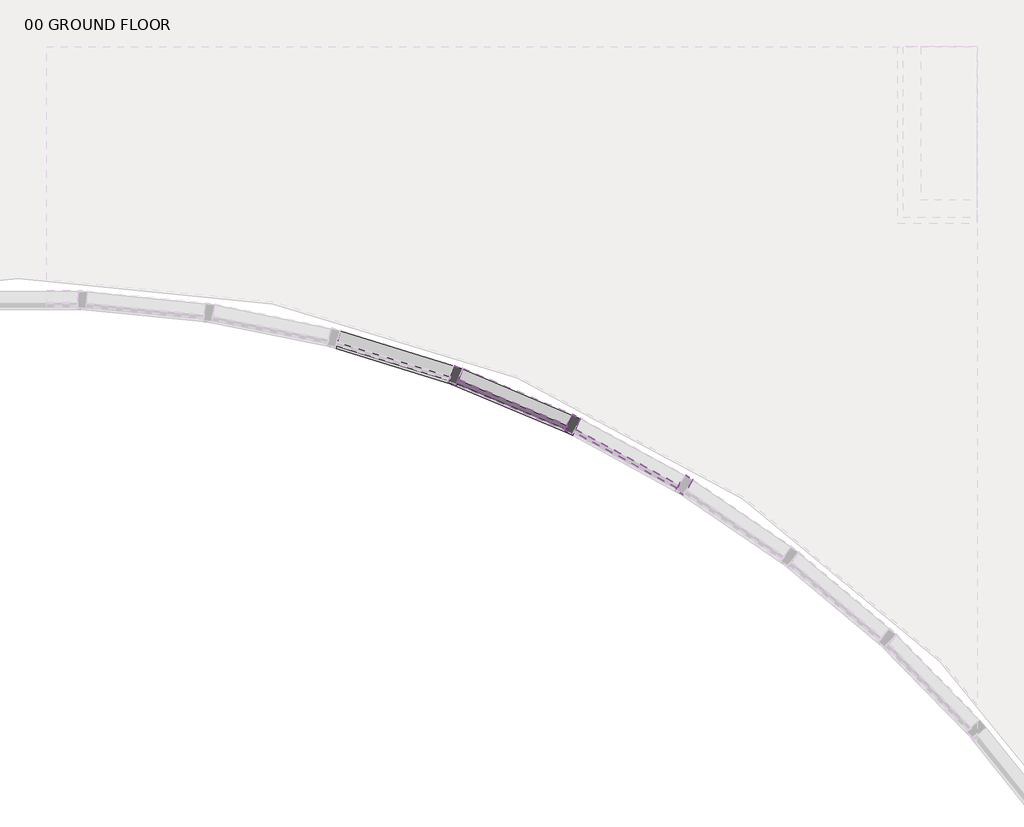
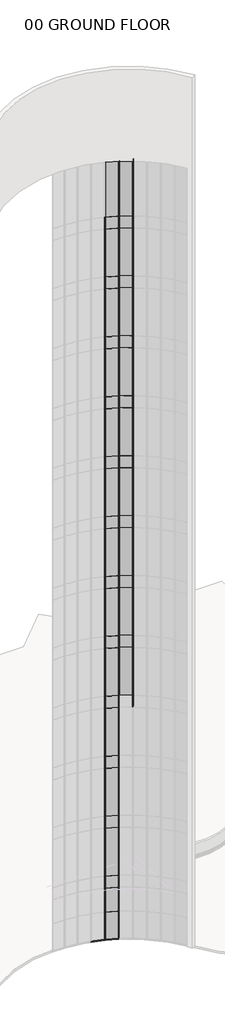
# One storey, part 10 of 33: 72 members, 43 plates.
"""IFC4 building model written with IfcOpenShell, lengths in millimetres."""

from ifc_helpers import new_model, si_unit, origin, place, context, project, spatial, transform, mapped, element, save
from components import member_ab6b85c2, member_7cbddb58, member_d60e8053, member_410c6227, member_810865a4, member_9e61c091, system_panel_su_blue_992d2dbe, system_panel_su_blue_f02faf6b, system_panel_su_blue_144861c6, system_panel_su_blue_654c3fe2, system_panel_su_blue_af244712

model = new_model("IFC4")

# Units and contexts
model_context = context("Model", 3, world=origin())
ifc_project = project(units=[si_unit("LENGTHUNIT", "METRE", prefix="MILLI")], contexts=[model_context])

# Site, building, storey
site = spatial("IfcSite", under=ifc_project)
building = spatial("IfcBuilding", under=site)
storey = spatial("IfcBuildingStorey", under=building, Name="00 GROUND FLOOR", Elevation=0.0)

# Members
placement = place(None, origin())
member_shape = member_ab6b85c2(model_context)
element("IfcMember", 1, ObjectType="Rectangular Mullion : 2.5\" x 5\" rectangular", at=placement, inside=storey, context=model_context, shape_type="MappedRepresentation", body=[
    mapped(member_shape, transform((18188.1623788, 3537.3052928, 59436.0), x_axis=(0.0, 0.0, 1.0), y_axis=(0.387673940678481, 0.9217965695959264, 0.0), z_axis=(-0.9217965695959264, 0.387673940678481, 0.0))),
])
element("IfcMember", 2, ObjectType="Rectangular Mullion : 2.5\" x 5\" rectangular", at=placement, inside=storey, context=model_context, shape_type="MappedRepresentation", body=[
    mapped(member_shape, transform((18953.9165021, 3215.2571009, 0.0), x_axis=(0.0, 0.0, -1.0), y_axis=(0.38767394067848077, 0.9217965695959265, 0.0), z_axis=(0.9217965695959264, -0.3876739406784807, 0.0))),
])
element("IfcMember", 3, ObjectType="Rectangular Mullion : 2.5\" x 5\" rectangular", at=placement, inside=storey, context=model_context, shape_type="MappedRepresentation", body=[
    mapped(member_shape, transform((18128.5501125, 3558.9536304, 0.0), x_axis=(0.0, 0.0, -1.0), y_axis=(0.2941634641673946, 0.9557551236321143, 0.0), z_axis=(0.9557551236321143, -0.2941634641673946, 0.0))),
])
member_2_shape = member_7cbddb58(model_context)
element("IfcMember", 4, ObjectType="Rectangular Mullion : 2.5\" x 5\" rectangular", at=placement, inside=storey, context=model_context, shape_type="MappedRepresentation", body=[
    mapped(member_2_shape, transform((18983.1835432, 3202.9484533, 0.0), x_axis=(-0.9013714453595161, 0.4330467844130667, 0.0), y_axis=(0.4330467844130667, 0.9013714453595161, 0.0), z_axis=(0.0, 0.0, -1.0))),
])
element("IfcMember", 5, ObjectType="Rectangular Mullion : 2.5\" x 5\" rectangular", at=placement, inside=storey, context=model_context, shape_type="MappedRepresentation", body=[
    mapped(member_2_shape, transform((18158.8953377, 3549.6139404, 0.0), x_axis=(-0.9399394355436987, 0.3413412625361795, 0.0), y_axis=(0.3413412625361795, 0.9399394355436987, 0.0), z_axis=(0.0, 0.0, -1.0))),
])
member_3_shape = member_d60e8053(model_context)
element("IfcMember", 6, ObjectType="Rectangular Mullion : 2.5\" x 5\" rectangular", at=placement, inside=storey, context=model_context, shape_type="MappedRepresentation", body=[
    mapped(member_3_shape, transform((18983.1835432, 3202.9484533, 2133.6), x_axis=(-0.9013714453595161, 0.4330467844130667, 0.0), y_axis=(0.4330467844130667, 0.9013714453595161, 0.0), z_axis=(0.0, 0.0, -1.0))),
])
element("IfcMember", 7, ObjectType="Rectangular Mullion : 2.5\" x 5\" rectangular", at=placement, inside=storey, context=model_context, shape_type="MappedRepresentation", body=[
    mapped(member_3_shape, transform((18158.8953377, 3549.6139404, 2133.6), x_axis=(-0.9399394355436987, 0.3413412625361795, 0.0), y_axis=(0.3413412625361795, 0.9399394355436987, 0.0), z_axis=(0.0, 0.0, -1.0))),
])
member_4_shape = member_410c6227(model_context)
element("IfcMember", 8, ObjectType="Rectangular Mullion : 2.5\" x 5\" rectangular", at=placement, inside=storey, context=model_context, shape_type="MappedRepresentation", body=[
    mapped(member_4_shape, transform((18983.1835432, 3202.9484533, 3962.4), x_axis=(-0.9013714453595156, 0.4330467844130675, 0.0), y_axis=(0.4330467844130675, 0.9013714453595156, 0.0), z_axis=(0.0, 0.0, -1.0))),
])
element("IfcMember", 9, ObjectType="Rectangular Mullion : 2.5\" x 5\" rectangular", at=placement, inside=storey, context=model_context, shape_type="MappedRepresentation", body=[
    mapped(member_4_shape, transform((18158.8953377, 3549.6139404, 3962.4), x_axis=(-0.9399394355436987, 0.3413412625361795, 0.0), y_axis=(0.3413412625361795, 0.9399394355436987, 0.0), z_axis=(0.0, 0.0, -1.0))),
])
element("IfcMember", 10, ObjectType="Rectangular Mullion : 2.5\" x 5\" rectangular", at=placement, inside=storey, context=model_context, shape_type="MappedRepresentation", body=[
    mapped(member_4_shape, transform((18983.1835432, 3202.9484533, 8534.4), x_axis=(-0.9013714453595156, 0.4330467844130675, 0.0), y_axis=(0.4330467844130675, 0.9013714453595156, 0.0), z_axis=(0.0, 0.0, -1.0))),
])
element("IfcMember", 11, ObjectType="Rectangular Mullion : 2.5\" x 5\" rectangular", at=placement, inside=storey, context=model_context, shape_type="MappedRepresentation", body=[
    mapped(member_4_shape, transform((18158.8953377, 3549.6139404, 8534.4), x_axis=(-0.9399394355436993, 0.34134126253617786, 0.0), y_axis=(0.34134126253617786, 0.9399394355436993, 0.0), z_axis=(0.0, 0.0, -1.0))),
])
element("IfcMember", 12, ObjectType="Rectangular Mullion : 2.5\" x 5\" rectangular", at=placement, inside=storey, context=model_context, shape_type="MappedRepresentation", body=[
    mapped(member_4_shape, transform((18983.1835432, 3202.9484533, 13106.4), x_axis=(-0.9013714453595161, 0.4330467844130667, 0.0), y_axis=(0.4330467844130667, 0.9013714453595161, 0.0), z_axis=(0.0, 0.0, -1.0))),
])
element("IfcMember", 13, ObjectType="Rectangular Mullion : 2.5\" x 5\" rectangular", at=placement, inside=storey, context=model_context, shape_type="MappedRepresentation", body=[
    mapped(member_4_shape, transform((18158.8953377, 3549.6139404, 13106.4), x_axis=(-0.9399394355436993, 0.34134126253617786, 0.0), y_axis=(0.34134126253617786, 0.9399394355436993, 0.0), z_axis=(0.0, 0.0, -1.0))),
])
element("IfcMember", 14, ObjectType="Rectangular Mullion : 2.5\" x 5\" rectangular", at=placement, inside=storey, context=model_context, shape_type="MappedRepresentation", body=[
    mapped(member_4_shape, transform((19768.9470531, 2776.0951856, 17678.4), x_axis=(-0.8538822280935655, 0.5204662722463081, 0.0), y_axis=(0.5204662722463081, 0.8538822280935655, 0.0), z_axis=(0.0, 0.0, -1.0))),
])
element("IfcMember", 15, ObjectType="Rectangular Mullion : 2.5\" x 5\" rectangular", at=placement, inside=storey, context=model_context, shape_type="MappedRepresentation", body=[
    mapped(member_4_shape, transform((18983.1835432, 3202.9484533, 17678.4), x_axis=(-0.9013714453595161, 0.4330467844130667, 0.0), y_axis=(0.4330467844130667, 0.9013714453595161, 0.0), z_axis=(0.0, 0.0, -1.0))),
])
element("IfcMember", 16, ObjectType="Rectangular Mullion : 2.5\" x 5\" rectangular", at=placement, inside=storey, context=model_context, shape_type="MappedRepresentation", body=[
    mapped(member_4_shape, transform((18158.8953377, 3549.6139404, 17678.4), x_axis=(-0.9399394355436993, 0.34134126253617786, 0.0), y_axis=(0.34134126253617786, 0.9399394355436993, 0.0), z_axis=(0.0, 0.0, -1.0))),
])
element("IfcMember", 17, ObjectType="Rectangular Mullion : 2.5\" x 5\" rectangular", at=placement, inside=storey, context=model_context, shape_type="MappedRepresentation", body=[
    mapped(member_4_shape, transform((19768.9470531, 2776.0951856, 22250.4), x_axis=(-0.8538822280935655, 0.5204662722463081, 0.0), y_axis=(0.5204662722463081, 0.8538822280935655, 0.0), z_axis=(0.0, 0.0, -1.0))),
])
element("IfcMember", 18, ObjectType="Rectangular Mullion : 2.5\" x 5\" rectangular", at=placement, inside=storey, context=model_context, shape_type="MappedRepresentation", body=[
    mapped(member_4_shape, transform((18983.1835432, 3202.9484533, 22250.4), x_axis=(-0.9013714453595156, 0.4330467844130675, 0.0), y_axis=(0.4330467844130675, 0.9013714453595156, 0.0), z_axis=(0.0, 0.0, -1.0))),
])
element("IfcMember", 19, ObjectType="Rectangular Mullion : 2.5\" x 5\" rectangular", at=placement, inside=storey, context=model_context, shape_type="MappedRepresentation", body=[
    mapped(member_4_shape, transform((18158.8953377, 3549.6139404, 22250.4), x_axis=(-0.9399394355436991, 0.34134126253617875, 0.0), y_axis=(0.34134126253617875, 0.9399394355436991, 0.0), z_axis=(0.0, 0.0, -1.0))),
])
element("IfcMember", 20, ObjectType="Rectangular Mullion : 2.5\" x 5\" rectangular", at=placement, inside=storey, context=model_context, shape_type="MappedRepresentation", body=[
    mapped(member_4_shape, transform((19768.9470531, 2776.0951856, 26822.4), x_axis=(-0.8538822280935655, 0.5204662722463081, 0.0), y_axis=(0.5204662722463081, 0.8538822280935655, 0.0), z_axis=(0.0, 0.0, -1.0))),
])
element("IfcMember", 21, ObjectType="Rectangular Mullion : 2.5\" x 5\" rectangular", at=placement, inside=storey, context=model_context, shape_type="MappedRepresentation", body=[
    mapped(member_4_shape, transform((18983.1835432, 3202.9484533, 26822.4), x_axis=(-0.9013714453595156, 0.4330467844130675, 0.0), y_axis=(0.4330467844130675, 0.9013714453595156, 0.0), z_axis=(0.0, 0.0, -1.0))),
])
element("IfcMember", 22, ObjectType="Rectangular Mullion : 2.5\" x 5\" rectangular", at=placement, inside=storey, context=model_context, shape_type="MappedRepresentation", body=[
    mapped(member_4_shape, transform((18158.8953377, 3549.6139404, 26822.4), x_axis=(-0.9399394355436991, 0.34134126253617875, 0.0), y_axis=(0.34134126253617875, 0.9399394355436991, 0.0), z_axis=(0.0, 0.0, -1.0))),
])
element("IfcMember", 23, ObjectType="Rectangular Mullion : 2.5\" x 5\" rectangular", at=placement, inside=storey, context=model_context, shape_type="MappedRepresentation", body=[
    mapped(member_4_shape, transform((19768.9470531, 2776.0951856, 31394.4), x_axis=(-0.8538822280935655, 0.5204662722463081, 0.0), y_axis=(0.5204662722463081, 0.8538822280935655, 0.0), z_axis=(0.0, 0.0, -1.0))),
])
element("IfcMember", 24, ObjectType="Rectangular Mullion : 2.5\" x 5\" rectangular", at=placement, inside=storey, context=model_context, shape_type="MappedRepresentation", body=[
    mapped(member_4_shape, transform((18983.1835432, 3202.9484533, 31394.4), x_axis=(-0.9013714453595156, 0.4330467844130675, 0.0), y_axis=(0.4330467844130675, 0.9013714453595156, 0.0), z_axis=(0.0, 0.0, -1.0))),
])
element("IfcMember", 25, ObjectType="Rectangular Mullion : 2.5\" x 5\" rectangular", at=placement, inside=storey, context=model_context, shape_type="MappedRepresentation", body=[
    mapped(member_4_shape, transform((18158.8953377, 3549.6139404, 31394.4), x_axis=(-0.9399394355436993, 0.34134126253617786, 0.0), y_axis=(0.34134126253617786, 0.9399394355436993, 0.0), z_axis=(0.0, 0.0, -1.0))),
])
element("IfcMember", 26, ObjectType="Rectangular Mullion : 2.5\" x 5\" rectangular", at=placement, inside=storey, context=model_context, shape_type="MappedRepresentation", body=[
    mapped(member_4_shape, transform((19768.9470531, 2776.0951856, 35966.4), x_axis=(-0.8538822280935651, 0.5204662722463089, 0.0), y_axis=(0.5204662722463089, 0.8538822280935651, 0.0), z_axis=(0.0, 0.0, -1.0))),
])
element("IfcMember", 27, ObjectType="Rectangular Mullion : 2.5\" x 5\" rectangular", at=placement, inside=storey, context=model_context, shape_type="MappedRepresentation", body=[
    mapped(member_4_shape, transform((18983.1835432, 3202.9484533, 35966.4), x_axis=(-0.9013714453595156, 0.4330467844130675, 0.0), y_axis=(0.4330467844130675, 0.9013714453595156, 0.0), z_axis=(0.0, 0.0, -1.0))),
])
element("IfcMember", 28, ObjectType="Rectangular Mullion : 2.5\" x 5\" rectangular", at=placement, inside=storey, context=model_context, shape_type="MappedRepresentation", body=[
    mapped(member_4_shape, transform((18158.8953377, 3549.6139404, 35966.4), x_axis=(-0.9399394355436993, 0.34134126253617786, 0.0), y_axis=(0.34134126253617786, 0.9399394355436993, 0.0), z_axis=(0.0, 0.0, -1.0))),
])
element("IfcMember", 29, ObjectType="Rectangular Mullion : 2.5\" x 5\" rectangular", at=placement, inside=storey, context=model_context, shape_type="MappedRepresentation", body=[
    mapped(member_4_shape, transform((19768.9470531, 2776.0951856, 40538.4), x_axis=(-0.8538822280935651, 0.5204662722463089, 0.0), y_axis=(0.5204662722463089, 0.8538822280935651, 0.0), z_axis=(0.0, 0.0, -1.0))),
])
element("IfcMember", 30, ObjectType="Rectangular Mullion : 2.5\" x 5\" rectangular", at=placement, inside=storey, context=model_context, shape_type="MappedRepresentation", body=[
    mapped(member_4_shape, transform((18983.1835432, 3202.9484533, 40538.4), x_axis=(-0.9013714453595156, 0.4330467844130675, 0.0), y_axis=(0.4330467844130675, 0.9013714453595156, 0.0), z_axis=(0.0, 0.0, -1.0))),
])
element("IfcMember", 31, ObjectType="Rectangular Mullion : 2.5\" x 5\" rectangular", at=placement, inside=storey, context=model_context, shape_type="MappedRepresentation", body=[
    mapped(member_4_shape, transform((18158.8953377, 3549.6139404, 40538.4), x_axis=(-0.9399394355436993, 0.34134126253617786, 0.0), y_axis=(0.34134126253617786, 0.9399394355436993, 0.0), z_axis=(0.0, 0.0, -1.0))),
])
element("IfcMember", 32, ObjectType="Rectangular Mullion : 2.5\" x 5\" rectangular", at=placement, inside=storey, context=model_context, shape_type="MappedRepresentation", body=[
    mapped(member_4_shape, transform((19768.9470531, 2776.0951856, 45110.4), x_axis=(-0.8538822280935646, 0.5204662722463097, 0.0), y_axis=(0.5204662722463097, 0.8538822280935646, 0.0), z_axis=(0.0, 0.0, -1.0))),
])
element("IfcMember", 33, ObjectType="Rectangular Mullion : 2.5\" x 5\" rectangular", at=placement, inside=storey, context=model_context, shape_type="MappedRepresentation", body=[
    mapped(member_4_shape, transform((18983.1835432, 3202.9484533, 45110.4), x_axis=(-0.9013714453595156, 0.4330467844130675, 0.0), y_axis=(0.4330467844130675, 0.9013714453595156, 0.0), z_axis=(0.0, 0.0, -1.0))),
])
element("IfcMember", 34, ObjectType="Rectangular Mullion : 2.5\" x 5\" rectangular", at=placement, inside=storey, context=model_context, shape_type="MappedRepresentation", body=[
    mapped(member_4_shape, transform((18158.8953377, 3549.6139404, 45110.4), x_axis=(-0.9399394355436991, 0.34134126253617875, 0.0), y_axis=(0.34134126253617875, 0.9399394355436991, 0.0), z_axis=(0.0, 0.0, -1.0))),
])
element("IfcMember", 35, ObjectType="Rectangular Mullion : 2.5\" x 5\" rectangular", at=placement, inside=storey, context=model_context, shape_type="MappedRepresentation", body=[
    mapped(member_4_shape, transform((19768.9470531, 2776.0951856, 49682.4), x_axis=(-0.8538822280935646, 0.5204662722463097, 0.0), y_axis=(0.5204662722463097, 0.8538822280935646, 0.0), z_axis=(0.0, 0.0, -1.0))),
])
element("IfcMember", 36, ObjectType="Rectangular Mullion : 2.5\" x 5\" rectangular", at=placement, inside=storey, context=model_context, shape_type="MappedRepresentation", body=[
    mapped(member_4_shape, transform((18983.1835432, 3202.9484533, 49682.4), x_axis=(-0.9013714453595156, 0.4330467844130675, 0.0), y_axis=(0.4330467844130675, 0.9013714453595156, 0.0), z_axis=(0.0, 0.0, -1.0))),
])
element("IfcMember", 37, ObjectType="Rectangular Mullion : 2.5\" x 5\" rectangular", at=placement, inside=storey, context=model_context, shape_type="MappedRepresentation", body=[
    mapped(member_4_shape, transform((18158.8953377, 3549.6139404, 49682.4), x_axis=(-0.9399394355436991, 0.34134126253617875, 0.0), y_axis=(0.34134126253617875, 0.9399394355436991, 0.0), z_axis=(0.0, 0.0, -1.0))),
])
element("IfcMember", 38, ObjectType="Rectangular Mullion : 2.5\" x 5\" rectangular", at=placement, inside=storey, context=model_context, shape_type="MappedRepresentation", body=[
    mapped(member_4_shape, transform((19768.9470531, 2776.0951856, 54254.4), x_axis=(-0.8538822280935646, 0.5204662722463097, 0.0), y_axis=(0.5204662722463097, 0.8538822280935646, 0.0), z_axis=(0.0, 0.0, -1.0))),
])
element("IfcMember", 39, ObjectType="Rectangular Mullion : 2.5\" x 5\" rectangular", at=placement, inside=storey, context=model_context, shape_type="MappedRepresentation", body=[
    mapped(member_4_shape, transform((18983.1835432, 3202.9484533, 54254.4), x_axis=(-0.9013714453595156, 0.4330467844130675, 0.0), y_axis=(0.4330467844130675, 0.9013714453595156, 0.0), z_axis=(0.0, 0.0, -1.0))),
])
element("IfcMember", 40, ObjectType="Rectangular Mullion : 2.5\" x 5\" rectangular", at=placement, inside=storey, context=model_context, shape_type="MappedRepresentation", body=[
    mapped(member_4_shape, transform((18158.8953377, 3549.6139404, 54254.4), x_axis=(-0.9399394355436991, 0.34134126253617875, 0.0), y_axis=(0.34134126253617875, 0.9399394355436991, 0.0), z_axis=(0.0, 0.0, -1.0))),
])
member_5_shape = member_810865a4(model_context)
element("IfcMember", 41, ObjectType="Rectangular Mullion : 2.5\" x 5\" rectangular", at=placement, inside=storey, context=model_context, shape_type="MappedRepresentation", body=[
    mapped(member_5_shape, transform((18983.1835432, 3202.9484533, 4876.8), x_axis=(-0.9013714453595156, 0.4330467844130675, 0.0), y_axis=(0.4330467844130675, 0.9013714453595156, 0.0), z_axis=(0.0, 0.0, -1.0))),
])
element("IfcMember", 42, ObjectType="Rectangular Mullion : 2.5\" x 5\" rectangular", at=placement, inside=storey, context=model_context, shape_type="MappedRepresentation", body=[
    mapped(member_5_shape, transform((18158.8953377, 3549.6139404, 4876.8), x_axis=(-0.9399394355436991, 0.34134126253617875, 0.0), y_axis=(0.34134126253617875, 0.9399394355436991, 0.0), z_axis=(0.0, 0.0, -1.0))),
])
element("IfcMember", 43, ObjectType="Rectangular Mullion : 2.5\" x 5\" rectangular", at=placement, inside=storey, context=model_context, shape_type="MappedRepresentation", body=[
    mapped(member_5_shape, transform((18983.1835432, 3202.9484533, 9448.8), x_axis=(-0.9013714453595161, 0.4330467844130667, 0.0), y_axis=(0.4330467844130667, 0.9013714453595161, 0.0), z_axis=(0.0, 0.0, -1.0))),
])
element("IfcMember", 44, ObjectType="Rectangular Mullion : 2.5\" x 5\" rectangular", at=placement, inside=storey, context=model_context, shape_type="MappedRepresentation", body=[
    mapped(member_5_shape, transform((18158.8953377, 3549.6139404, 9448.8), x_axis=(-0.9399394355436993, 0.34134126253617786, 0.0), y_axis=(0.34134126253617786, 0.9399394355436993, 0.0), z_axis=(0.0, 0.0, -1.0))),
])
element("IfcMember", 45, ObjectType="Rectangular Mullion : 2.5\" x 5\" rectangular", at=placement, inside=storey, context=model_context, shape_type="MappedRepresentation", body=[
    mapped(member_5_shape, transform((18983.1835432, 3202.9484533, 14020.8), x_axis=(-0.9013714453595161, 0.4330467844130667, 0.0), y_axis=(0.4330467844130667, 0.9013714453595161, 0.0), z_axis=(0.0, 0.0, -1.0))),
])
element("IfcMember", 46, ObjectType="Rectangular Mullion : 2.5\" x 5\" rectangular", at=placement, inside=storey, context=model_context, shape_type="MappedRepresentation", body=[
    mapped(member_5_shape, transform((18158.8953377, 3549.6139404, 14020.8), x_axis=(-0.9399394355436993, 0.34134126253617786, 0.0), y_axis=(0.34134126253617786, 0.9399394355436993, 0.0), z_axis=(0.0, 0.0, -1.0))),
])
element("IfcMember", 47, ObjectType="Rectangular Mullion : 2.5\" x 5\" rectangular", at=placement, inside=storey, context=model_context, shape_type="MappedRepresentation", body=[
    mapped(member_5_shape, transform((19768.9470531, 2776.0951856, 18592.8), x_axis=(-0.8538822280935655, 0.5204662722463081, 0.0), y_axis=(0.5204662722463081, 0.8538822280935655, 0.0), z_axis=(0.0, 0.0, -1.0))),
])
element("IfcMember", 48, ObjectType="Rectangular Mullion : 2.5\" x 5\" rectangular", at=placement, inside=storey, context=model_context, shape_type="MappedRepresentation", body=[
    mapped(member_5_shape, transform((18983.1835432, 3202.9484533, 18592.8), x_axis=(-0.9013714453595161, 0.4330467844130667, 0.0), y_axis=(0.4330467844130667, 0.9013714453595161, 0.0), z_axis=(0.0, 0.0, -1.0))),
])
element("IfcMember", 49, ObjectType="Rectangular Mullion : 2.5\" x 5\" rectangular", at=placement, inside=storey, context=model_context, shape_type="MappedRepresentation", body=[
    mapped(member_5_shape, transform((18158.8953377, 3549.6139404, 18592.8), x_axis=(-0.9399394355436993, 0.34134126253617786, 0.0), y_axis=(0.34134126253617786, 0.9399394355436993, 0.0), z_axis=(0.0, 0.0, -1.0))),
])
element("IfcMember", 50, ObjectType="Rectangular Mullion : 2.5\" x 5\" rectangular", at=placement, inside=storey, context=model_context, shape_type="MappedRepresentation", body=[
    mapped(member_5_shape, transform((19768.9470531, 2776.0951856, 23164.8), x_axis=(-0.8538822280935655, 0.5204662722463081, 0.0), y_axis=(0.5204662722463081, 0.8538822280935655, 0.0), z_axis=(0.0, 0.0, -1.0))),
])
element("IfcMember", 51, ObjectType="Rectangular Mullion : 2.5\" x 5\" rectangular", at=placement, inside=storey, context=model_context, shape_type="MappedRepresentation", body=[
    mapped(member_5_shape, transform((18983.1835432, 3202.9484533, 23164.8), x_axis=(-0.9013714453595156, 0.4330467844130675, 0.0), y_axis=(0.4330467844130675, 0.9013714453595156, 0.0), z_axis=(0.0, 0.0, -1.0))),
])
element("IfcMember", 52, ObjectType="Rectangular Mullion : 2.5\" x 5\" rectangular", at=placement, inside=storey, context=model_context, shape_type="MappedRepresentation", body=[
    mapped(member_5_shape, transform((18158.8953377, 3549.6139404, 23164.8), x_axis=(-0.9399394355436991, 0.34134126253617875, 0.0), y_axis=(0.34134126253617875, 0.9399394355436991, 0.0), z_axis=(0.0, 0.0, -1.0))),
])
element("IfcMember", 53, ObjectType="Rectangular Mullion : 2.5\" x 5\" rectangular", at=placement, inside=storey, context=model_context, shape_type="MappedRepresentation", body=[
    mapped(member_5_shape, transform((19768.9470531, 2776.0951856, 27736.8), x_axis=(-0.8538822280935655, 0.5204662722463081, 0.0), y_axis=(0.5204662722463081, 0.8538822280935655, 0.0), z_axis=(0.0, 0.0, -1.0))),
])
element("IfcMember", 54, ObjectType="Rectangular Mullion : 2.5\" x 5\" rectangular", at=placement, inside=storey, context=model_context, shape_type="MappedRepresentation", body=[
    mapped(member_5_shape, transform((18983.1835432, 3202.9484533, 27736.8), x_axis=(-0.9013714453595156, 0.4330467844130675, 0.0), y_axis=(0.4330467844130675, 0.9013714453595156, 0.0), z_axis=(0.0, 0.0, -1.0))),
])
element("IfcMember", 55, ObjectType="Rectangular Mullion : 2.5\" x 5\" rectangular", at=placement, inside=storey, context=model_context, shape_type="MappedRepresentation", body=[
    mapped(member_5_shape, transform((18158.8953377, 3549.6139404, 27736.8), x_axis=(-0.9399394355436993, 0.34134126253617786, 0.0), y_axis=(0.34134126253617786, 0.9399394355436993, 0.0), z_axis=(0.0, 0.0, -1.0))),
])
element("IfcMember", 56, ObjectType="Rectangular Mullion : 2.5\" x 5\" rectangular", at=placement, inside=storey, context=model_context, shape_type="MappedRepresentation", body=[
    mapped(member_5_shape, transform((19768.9470531, 2776.0951856, 32308.8), x_axis=(-0.8538822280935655, 0.5204662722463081, 0.0), y_axis=(0.5204662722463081, 0.8538822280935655, 0.0), z_axis=(0.0, 0.0, -1.0))),
])
element("IfcMember", 57, ObjectType="Rectangular Mullion : 2.5\" x 5\" rectangular", at=placement, inside=storey, context=model_context, shape_type="MappedRepresentation", body=[
    mapped(member_5_shape, transform((18983.1835432, 3202.9484533, 32308.8), x_axis=(-0.9013714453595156, 0.4330467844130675, 0.0), y_axis=(0.4330467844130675, 0.9013714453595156, 0.0), z_axis=(0.0, 0.0, -1.0))),
])
element("IfcMember", 58, ObjectType="Rectangular Mullion : 2.5\" x 5\" rectangular", at=placement, inside=storey, context=model_context, shape_type="MappedRepresentation", body=[
    mapped(member_5_shape, transform((18158.8953377, 3549.6139404, 32308.8), x_axis=(-0.9399394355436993, 0.34134126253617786, 0.0), y_axis=(0.34134126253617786, 0.9399394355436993, 0.0), z_axis=(0.0, 0.0, -1.0))),
])
element("IfcMember", 59, ObjectType="Rectangular Mullion : 2.5\" x 5\" rectangular", at=placement, inside=storey, context=model_context, shape_type="MappedRepresentation", body=[
    mapped(member_5_shape, transform((19768.9470531, 2776.0951856, 36880.8), x_axis=(-0.8538822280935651, 0.5204662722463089, 0.0), y_axis=(0.5204662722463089, 0.8538822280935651, 0.0), z_axis=(0.0, 0.0, -1.0))),
])
element("IfcMember", 60, ObjectType="Rectangular Mullion : 2.5\" x 5\" rectangular", at=placement, inside=storey, context=model_context, shape_type="MappedRepresentation", body=[
    mapped(member_5_shape, transform((18983.1835432, 3202.9484533, 36880.8), x_axis=(-0.9013714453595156, 0.4330467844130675, 0.0), y_axis=(0.4330467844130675, 0.9013714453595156, 0.0), z_axis=(0.0, 0.0, -1.0))),
])
element("IfcMember", 61, ObjectType="Rectangular Mullion : 2.5\" x 5\" rectangular", at=placement, inside=storey, context=model_context, shape_type="MappedRepresentation", body=[
    mapped(member_5_shape, transform((18158.8953377, 3549.6139404, 36880.8), x_axis=(-0.9399394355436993, 0.34134126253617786, 0.0), y_axis=(0.34134126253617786, 0.9399394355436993, 0.0), z_axis=(0.0, 0.0, -1.0))),
])
element("IfcMember", 62, ObjectType="Rectangular Mullion : 2.5\" x 5\" rectangular", at=placement, inside=storey, context=model_context, shape_type="MappedRepresentation", body=[
    mapped(member_5_shape, transform((19768.9470531, 2776.0951856, 41452.8), x_axis=(-0.8538822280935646, 0.5204662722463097, 0.0), y_axis=(0.5204662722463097, 0.8538822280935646, 0.0), z_axis=(0.0, 0.0, -1.0))),
])
element("IfcMember", 63, ObjectType="Rectangular Mullion : 2.5\" x 5\" rectangular", at=placement, inside=storey, context=model_context, shape_type="MappedRepresentation", body=[
    mapped(member_5_shape, transform((18983.1835432, 3202.9484533, 41452.8), x_axis=(-0.9013714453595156, 0.4330467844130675, 0.0), y_axis=(0.4330467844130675, 0.9013714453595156, 0.0), z_axis=(0.0, 0.0, -1.0))),
])
element("IfcMember", 64, ObjectType="Rectangular Mullion : 2.5\" x 5\" rectangular", at=placement, inside=storey, context=model_context, shape_type="MappedRepresentation", body=[
    mapped(member_5_shape, transform((18158.8953377, 3549.6139404, 41452.8), x_axis=(-0.9399394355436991, 0.34134126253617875, 0.0), y_axis=(0.34134126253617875, 0.9399394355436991, 0.0), z_axis=(0.0, 0.0, -1.0))),
])
element("IfcMember", 65, ObjectType="Rectangular Mullion : 2.5\" x 5\" rectangular", at=placement, inside=storey, context=model_context, shape_type="MappedRepresentation", body=[
    mapped(member_5_shape, transform((19768.9470531, 2776.0951856, 46024.8), x_axis=(-0.8538822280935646, 0.5204662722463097, 0.0), y_axis=(0.5204662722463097, 0.8538822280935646, 0.0), z_axis=(0.0, 0.0, -1.0))),
])
element("IfcMember", 66, ObjectType="Rectangular Mullion : 2.5\" x 5\" rectangular", at=placement, inside=storey, context=model_context, shape_type="MappedRepresentation", body=[
    mapped(member_5_shape, transform((18983.1835432, 3202.9484533, 46024.8), x_axis=(-0.9013714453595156, 0.4330467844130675, 0.0), y_axis=(0.4330467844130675, 0.9013714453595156, 0.0), z_axis=(0.0, 0.0, -1.0))),
])
element("IfcMember", 67, ObjectType="Rectangular Mullion : 2.5\" x 5\" rectangular", at=placement, inside=storey, context=model_context, shape_type="MappedRepresentation", body=[
    mapped(member_5_shape, transform((18158.8953377, 3549.6139404, 46024.8), x_axis=(-0.9399394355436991, 0.34134126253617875, 0.0), y_axis=(0.34134126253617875, 0.9399394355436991, 0.0), z_axis=(0.0, 0.0, -1.0))),
])
element("IfcMember", 68, ObjectType="Rectangular Mullion : 2.5\" x 5\" rectangular", at=placement, inside=storey, context=model_context, shape_type="MappedRepresentation", body=[
    mapped(member_5_shape, transform((19768.9470531, 2776.0951856, 50596.8), x_axis=(-0.8538822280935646, 0.5204662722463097, 0.0), y_axis=(0.5204662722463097, 0.8538822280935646, 0.0), z_axis=(0.0, 0.0, -1.0))),
])
element("IfcMember", 69, ObjectType="Rectangular Mullion : 2.5\" x 5\" rectangular", at=placement, inside=storey, context=model_context, shape_type="MappedRepresentation", body=[
    mapped(member_5_shape, transform((18983.1835432, 3202.9484533, 50596.8), x_axis=(-0.9013714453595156, 0.4330467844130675, 0.0), y_axis=(0.4330467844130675, 0.9013714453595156, 0.0), z_axis=(0.0, 0.0, -1.0))),
])
element("IfcMember", 70, ObjectType="Rectangular Mullion : 2.5\" x 5\" rectangular", at=placement, inside=storey, context=model_context, shape_type="MappedRepresentation", body=[
    mapped(member_5_shape, transform((18158.8953377, 3549.6139404, 50596.8), x_axis=(-0.9399394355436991, 0.34134126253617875, 0.0), y_axis=(0.34134126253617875, 0.9399394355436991, 0.0), z_axis=(0.0, 0.0, -1.0))),
])
member_6_shape = member_9e61c091(model_context)
element("IfcMember", 71, ObjectType="Rectangular Mullion : 2.5\" x 5\" rectangular", at=placement, inside=storey, context=model_context, shape_type="MappedRepresentation", body=[
    mapped(member_6_shape, transform((19768.9470531, 2776.0951856, 55168.8), x_axis=(-0.8538822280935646, 0.5204662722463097, 0.0), y_axis=(0.5204662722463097, 0.8538822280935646, 0.0), z_axis=(0.0, 0.0, -1.0))),
])
element("IfcMember", 72, ObjectType="Rectangular Mullion : 2.5\" x 5\" rectangular", at=placement, inside=storey, context=model_context, shape_type="MappedRepresentation", body=[
    mapped(member_6_shape, transform((18983.1835432, 3202.9484533, 55168.8), x_axis=(-0.9013714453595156, 0.4330467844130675, 0.0), y_axis=(0.4330467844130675, 0.9013714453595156, 0.0), z_axis=(0.0, 0.0, -1.0))),
])

# Plates
system_panel_su_blue_shape = system_panel_su_blue_992d2dbe(model_context)
element("IfcPlate", 73, ObjectType="System Panel : SU_BLUE", at=placement, inside=storey, context=model_context, shape_type="MappedRepresentation", body=[
    mapped(system_panel_su_blue_shape, transform((18571.0394404, 3376.2811968, 63.5), x_axis=(-0.9217965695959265, 0.38767394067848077, 0.0), y_axis=(-0.38767394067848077, -0.9217965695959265, 0.0), z_axis=(0.0, 0.0, 1.0))),
])
system_panel_su_blue_2_shape = system_panel_su_blue_f02faf6b(model_context)
element("IfcPlate", 74, ObjectType="System Panel : SU_BLUE", at=placement, inside=storey, context=model_context, shape_type="MappedRepresentation", body=[
    mapped(system_panel_su_blue_2_shape, transform((18571.0394404, 3376.2811968, 2133.6), x_axis=(-0.9217965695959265, 0.38767394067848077, 0.0), y_axis=(-0.38767394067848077, -0.9217965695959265, 0.0), z_axis=(0.0, 0.0, 1.0))),
])
system_panel_su_blue_3_shape = system_panel_su_blue_144861c6(model_context)
element("IfcPlate", 75, ObjectType="System Panel : SU_BLUE", at=placement, inside=storey, context=model_context, shape_type="MappedRepresentation", body=[
    mapped(system_panel_su_blue_3_shape, transform((18571.0394404, 3376.2811968, 3962.4), x_axis=(-0.9217965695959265, 0.38767394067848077, 0.0), y_axis=(-0.38767394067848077, -0.9217965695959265, 0.0), z_axis=(0.0, 0.0, 1.0))),
])
element("IfcPlate", 76, ObjectType="System Panel : SU_BLUE", at=placement, inside=storey, context=model_context, shape_type="MappedRepresentation", body=[
    mapped(system_panel_su_blue_3_shape, transform((18571.0394404, 3376.2811968, 8534.4), x_axis=(-0.9217965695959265, 0.38767394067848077, 0.0), y_axis=(-0.38767394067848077, -0.9217965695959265, 0.0), z_axis=(0.0, 0.0, 1.0))),
])
element("IfcPlate", 77, ObjectType="System Panel : SU_BLUE", at=placement, inside=storey, context=model_context, shape_type="MappedRepresentation", body=[
    mapped(system_panel_su_blue_3_shape, transform((18571.0394404, 3376.2811968, 13106.4), x_axis=(-0.9217965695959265, 0.38767394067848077, 0.0), y_axis=(-0.38767394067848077, -0.9217965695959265, 0.0), z_axis=(0.0, 0.0, 1.0))),
])
element("IfcPlate", 78, ObjectType="System Panel : SU_BLUE", at=placement, inside=storey, context=model_context, shape_type="MappedRepresentation", body=[
    mapped(system_panel_su_blue_3_shape, transform((18571.0394404, 3376.2811968, 17678.4), x_axis=(-0.9217965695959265, 0.38767394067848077, 0.0), y_axis=(-0.38767394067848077, -0.9217965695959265, 0.0), z_axis=(0.0, 0.0, 1.0))),
])
element("IfcPlate", 79, ObjectType="System Panel : SU_BLUE", at=placement, inside=storey, context=model_context, shape_type="MappedRepresentation", body=[
    mapped(system_panel_su_blue_3_shape, transform((19376.0652982, 2989.5218194, 22250.4), x_axis=(-0.8787146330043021, 0.47734745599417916, 0.0), y_axis=(-0.47734745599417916, -0.8787146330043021, 0.0), z_axis=(0.0, 0.0, 1.0))),
])
element("IfcPlate", 80, ObjectType="System Panel : SU_BLUE", at=placement, inside=storey, context=model_context, shape_type="MappedRepresentation", body=[
    mapped(system_panel_su_blue_3_shape, transform((18571.0394404, 3376.2811968, 22250.4), x_axis=(-0.9217965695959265, 0.38767394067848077, 0.0), y_axis=(-0.38767394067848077, -0.9217965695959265, 0.0), z_axis=(0.0, 0.0, 1.0))),
])
element("IfcPlate", 81, ObjectType="System Panel : SU_BLUE", at=placement, inside=storey, context=model_context, shape_type="MappedRepresentation", body=[
    mapped(system_panel_su_blue_3_shape, transform((19376.0652982, 2989.5218194, 26822.4), x_axis=(-0.8787146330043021, 0.47734745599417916, 0.0), y_axis=(-0.47734745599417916, -0.8787146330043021, 0.0), z_axis=(0.0, 0.0, 1.0))),
])
element("IfcPlate", 82, ObjectType="System Panel : SU_BLUE", at=placement, inside=storey, context=model_context, shape_type="MappedRepresentation", body=[
    mapped(system_panel_su_blue_3_shape, transform((18571.0394404, 3376.2811968, 26822.4), x_axis=(-0.9217965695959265, 0.38767394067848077, 0.0), y_axis=(-0.38767394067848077, -0.9217965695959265, 0.0), z_axis=(0.0, 0.0, 1.0))),
])
element("IfcPlate", 83, ObjectType="System Panel : SU_BLUE", at=placement, inside=storey, context=model_context, shape_type="MappedRepresentation", body=[
    mapped(system_panel_su_blue_3_shape, transform((19376.0652982, 2989.5218194, 31394.4), x_axis=(-0.8787146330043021, 0.47734745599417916, 0.0), y_axis=(-0.47734745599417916, -0.8787146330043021, 0.0), z_axis=(0.0, 0.0, 1.0))),
])
element("IfcPlate", 84, ObjectType="System Panel : SU_BLUE", at=placement, inside=storey, context=model_context, shape_type="MappedRepresentation", body=[
    mapped(system_panel_su_blue_3_shape, transform((18571.0394404, 3376.2811968, 31394.4), x_axis=(-0.9217965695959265, 0.38767394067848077, 0.0), y_axis=(-0.38767394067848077, -0.9217965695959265, 0.0), z_axis=(0.0, 0.0, 1.0))),
])
element("IfcPlate", 85, ObjectType="System Panel : SU_BLUE", at=placement, inside=storey, context=model_context, shape_type="MappedRepresentation", body=[
    mapped(system_panel_su_blue_3_shape, transform((19376.0652982, 2989.5218194, 35966.4), x_axis=(-0.8787146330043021, 0.47734745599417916, 0.0), y_axis=(-0.47734745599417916, -0.8787146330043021, 0.0), z_axis=(0.0, 0.0, 1.0))),
])
element("IfcPlate", 86, ObjectType="System Panel : SU_BLUE", at=placement, inside=storey, context=model_context, shape_type="MappedRepresentation", body=[
    mapped(system_panel_su_blue_3_shape, transform((18571.0394404, 3376.2811968, 35966.4), x_axis=(-0.9217965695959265, 0.38767394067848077, 0.0), y_axis=(-0.38767394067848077, -0.9217965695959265, 0.0), z_axis=(0.0, 0.0, 1.0))),
])
element("IfcPlate", 87, ObjectType="System Panel : SU_BLUE", at=placement, inside=storey, context=model_context, shape_type="MappedRepresentation", body=[
    mapped(system_panel_su_blue_3_shape, transform((19376.0652982, 2989.5218194, 40538.4), x_axis=(-0.8787146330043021, 0.47734745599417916, 0.0), y_axis=(-0.47734745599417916, -0.8787146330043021, 0.0), z_axis=(0.0, 0.0, 1.0))),
])
element("IfcPlate", 88, ObjectType="System Panel : SU_BLUE", at=placement, inside=storey, context=model_context, shape_type="MappedRepresentation", body=[
    mapped(system_panel_su_blue_3_shape, transform((18571.0394404, 3376.2811968, 40538.4), x_axis=(-0.9217965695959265, 0.38767394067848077, 0.0), y_axis=(-0.38767394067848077, -0.9217965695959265, 0.0), z_axis=(0.0, 0.0, 1.0))),
])
element("IfcPlate", 89, ObjectType="System Panel : SU_BLUE", at=placement, inside=storey, context=model_context, shape_type="MappedRepresentation", body=[
    mapped(system_panel_su_blue_3_shape, transform((19376.0652982, 2989.5218194, 45110.4), x_axis=(-0.8787146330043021, 0.47734745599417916, 0.0), y_axis=(-0.47734745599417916, -0.8787146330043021, 0.0), z_axis=(0.0, 0.0, 1.0))),
])
element("IfcPlate", 90, ObjectType="System Panel : SU_BLUE", at=placement, inside=storey, context=model_context, shape_type="MappedRepresentation", body=[
    mapped(system_panel_su_blue_3_shape, transform((18571.0394404, 3376.2811968, 45110.4), x_axis=(-0.9217965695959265, 0.38767394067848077, 0.0), y_axis=(-0.38767394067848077, -0.9217965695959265, 0.0), z_axis=(0.0, 0.0, 1.0))),
])
element("IfcPlate", 91, ObjectType="System Panel : SU_BLUE", at=placement, inside=storey, context=model_context, shape_type="MappedRepresentation", body=[
    mapped(system_panel_su_blue_3_shape, transform((19376.0652982, 2989.5218194, 49682.4), x_axis=(-0.8787146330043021, 0.47734745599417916, 0.0), y_axis=(-0.47734745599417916, -0.8787146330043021, 0.0), z_axis=(0.0, 0.0, 1.0))),
])
element("IfcPlate", 92, ObjectType="System Panel : SU_BLUE", at=placement, inside=storey, context=model_context, shape_type="MappedRepresentation", body=[
    mapped(system_panel_su_blue_3_shape, transform((18571.0394404, 3376.2811968, 49682.4), x_axis=(-0.9217965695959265, 0.38767394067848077, 0.0), y_axis=(-0.38767394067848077, -0.9217965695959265, 0.0), z_axis=(0.0, 0.0, 1.0))),
])
element("IfcPlate", 93, ObjectType="System Panel : SU_BLUE", at=placement, inside=storey, context=model_context, shape_type="MappedRepresentation", body=[
    mapped(system_panel_su_blue_3_shape, transform((19376.0652982, 2989.5218194, 54254.4), x_axis=(-0.8787146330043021, 0.47734745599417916, 0.0), y_axis=(-0.47734745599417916, -0.8787146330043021, 0.0), z_axis=(0.0, 0.0, 1.0))),
])
element("IfcPlate", 94, ObjectType="System Panel : SU_BLUE", at=placement, inside=storey, context=model_context, shape_type="MappedRepresentation", body=[
    mapped(system_panel_su_blue_3_shape, transform((18571.0394404, 3376.2811968, 54254.4), x_axis=(-0.9217965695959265, 0.38767394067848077, 0.0), y_axis=(-0.38767394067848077, -0.9217965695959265, 0.0), z_axis=(0.0, 0.0, 1.0))),
])
system_panel_su_blue_4_shape = system_panel_su_blue_654c3fe2(model_context)
element("IfcPlate", 95, ObjectType="System Panel : SU_BLUE", at=placement, inside=storey, context=model_context, shape_type="MappedRepresentation", body=[
    mapped(system_panel_su_blue_4_shape, transform((18571.0394404, 3376.2811968, 4876.8), x_axis=(-0.9217965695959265, 0.38767394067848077, 0.0), y_axis=(-0.38767394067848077, -0.9217965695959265, 0.0), z_axis=(0.0, 0.0, 1.0))),
])
element("IfcPlate", 96, ObjectType="System Panel : SU_BLUE", at=placement, inside=storey, context=model_context, shape_type="MappedRepresentation", body=[
    mapped(system_panel_su_blue_4_shape, transform((18571.0394404, 3376.2811968, 9448.8), x_axis=(-0.9217965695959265, 0.38767394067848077, 0.0), y_axis=(-0.38767394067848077, -0.9217965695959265, 0.0), z_axis=(0.0, 0.0, 1.0))),
])
element("IfcPlate", 97, ObjectType="System Panel : SU_BLUE", at=placement, inside=storey, context=model_context, shape_type="MappedRepresentation", body=[
    mapped(system_panel_su_blue_4_shape, transform((18571.0394404, 3376.2811968, 14020.8), x_axis=(-0.9217965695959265, 0.38767394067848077, 0.0), y_axis=(-0.38767394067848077, -0.9217965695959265, 0.0), z_axis=(0.0, 0.0, 1.0))),
])
element("IfcPlate", 98, ObjectType="System Panel : SU_BLUE", at=placement, inside=storey, context=model_context, shape_type="MappedRepresentation", body=[
    mapped(system_panel_su_blue_4_shape, transform((19376.0652982, 2989.5218194, 18592.8), x_axis=(-0.8787146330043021, 0.47734745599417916, 0.0), y_axis=(-0.47734745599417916, -0.8787146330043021, 0.0), z_axis=(0.0, 0.0, 1.0))),
])
element("IfcPlate", 99, ObjectType="System Panel : SU_BLUE", at=placement, inside=storey, context=model_context, shape_type="MappedRepresentation", body=[
    mapped(system_panel_su_blue_4_shape, transform((18571.0394404, 3376.2811968, 18592.8), x_axis=(-0.9217965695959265, 0.38767394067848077, 0.0), y_axis=(-0.38767394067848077, -0.9217965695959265, 0.0), z_axis=(0.0, 0.0, 1.0))),
])
element("IfcPlate", 100, ObjectType="System Panel : SU_BLUE", at=placement, inside=storey, context=model_context, shape_type="MappedRepresentation", body=[
    mapped(system_panel_su_blue_4_shape, transform((19376.0652982, 2989.5218194, 23164.8), x_axis=(-0.8787146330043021, 0.47734745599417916, 0.0), y_axis=(-0.47734745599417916, -0.8787146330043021, 0.0), z_axis=(0.0, 0.0, 1.0))),
])
element("IfcPlate", 101, ObjectType="System Panel : SU_BLUE", at=placement, inside=storey, context=model_context, shape_type="MappedRepresentation", body=[
    mapped(system_panel_su_blue_4_shape, transform((18571.0394404, 3376.2811968, 23164.8), x_axis=(-0.9217965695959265, 0.38767394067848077, 0.0), y_axis=(-0.38767394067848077, -0.9217965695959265, 0.0), z_axis=(0.0, 0.0, 1.0))),
])
element("IfcPlate", 102, ObjectType="System Panel : SU_BLUE", at=placement, inside=storey, context=model_context, shape_type="MappedRepresentation", body=[
    mapped(system_panel_su_blue_4_shape, transform((19376.0652982, 2989.5218194, 27736.8), x_axis=(-0.8787146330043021, 0.47734745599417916, 0.0), y_axis=(-0.47734745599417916, -0.8787146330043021, 0.0), z_axis=(0.0, 0.0, 1.0))),
])
element("IfcPlate", 103, ObjectType="System Panel : SU_BLUE", at=placement, inside=storey, context=model_context, shape_type="MappedRepresentation", body=[
    mapped(system_panel_su_blue_4_shape, transform((18571.0394404, 3376.2811968, 27736.8), x_axis=(-0.9217965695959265, 0.38767394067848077, 0.0), y_axis=(-0.38767394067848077, -0.9217965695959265, 0.0), z_axis=(0.0, 0.0, 1.0))),
])
element("IfcPlate", 104, ObjectType="System Panel : SU_BLUE", at=placement, inside=storey, context=model_context, shape_type="MappedRepresentation", body=[
    mapped(system_panel_su_blue_4_shape, transform((19376.0652982, 2989.5218194, 32308.8), x_axis=(-0.8787146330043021, 0.47734745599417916, 0.0), y_axis=(-0.47734745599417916, -0.8787146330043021, 0.0), z_axis=(0.0, 0.0, 1.0))),
])
element("IfcPlate", 105, ObjectType="System Panel : SU_BLUE", at=placement, inside=storey, context=model_context, shape_type="MappedRepresentation", body=[
    mapped(system_panel_su_blue_4_shape, transform((18571.0394404, 3376.2811968, 32308.8), x_axis=(-0.9217965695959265, 0.38767394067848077, 0.0), y_axis=(-0.38767394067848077, -0.9217965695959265, 0.0), z_axis=(0.0, 0.0, 1.0))),
])
element("IfcPlate", 106, ObjectType="System Panel : SU_BLUE", at=placement, inside=storey, context=model_context, shape_type="MappedRepresentation", body=[
    mapped(system_panel_su_blue_4_shape, transform((19376.0652982, 2989.5218194, 36880.8), x_axis=(-0.8787146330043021, 0.47734745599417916, 0.0), y_axis=(-0.47734745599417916, -0.8787146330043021, 0.0), z_axis=(0.0, 0.0, 1.0))),
])
element("IfcPlate", 107, ObjectType="System Panel : SU_BLUE", at=placement, inside=storey, context=model_context, shape_type="MappedRepresentation", body=[
    mapped(system_panel_su_blue_4_shape, transform((18571.0394404, 3376.2811968, 36880.8), x_axis=(-0.9217965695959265, 0.38767394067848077, 0.0), y_axis=(-0.38767394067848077, -0.9217965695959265, 0.0), z_axis=(0.0, 0.0, 1.0))),
])
element("IfcPlate", 108, ObjectType="System Panel : SU_BLUE", at=placement, inside=storey, context=model_context, shape_type="MappedRepresentation", body=[
    mapped(system_panel_su_blue_4_shape, transform((19376.0652982, 2989.5218194, 41452.8), x_axis=(-0.8787146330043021, 0.47734745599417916, 0.0), y_axis=(-0.47734745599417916, -0.8787146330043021, 0.0), z_axis=(0.0, 0.0, 1.0))),
])
element("IfcPlate", 109, ObjectType="System Panel : SU_BLUE", at=placement, inside=storey, context=model_context, shape_type="MappedRepresentation", body=[
    mapped(system_panel_su_blue_4_shape, transform((18571.0394404, 3376.2811968, 41452.8), x_axis=(-0.9217965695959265, 0.38767394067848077, 0.0), y_axis=(-0.38767394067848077, -0.9217965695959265, 0.0), z_axis=(0.0, 0.0, 1.0))),
])
element("IfcPlate", 110, ObjectType="System Panel : SU_BLUE", at=placement, inside=storey, context=model_context, shape_type="MappedRepresentation", body=[
    mapped(system_panel_su_blue_4_shape, transform((19376.0652982, 2989.5218194, 46024.8), x_axis=(-0.8787146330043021, 0.47734745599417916, 0.0), y_axis=(-0.47734745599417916, -0.8787146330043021, 0.0), z_axis=(0.0, 0.0, 1.0))),
])
element("IfcPlate", 111, ObjectType="System Panel : SU_BLUE", at=placement, inside=storey, context=model_context, shape_type="MappedRepresentation", body=[
    mapped(system_panel_su_blue_4_shape, transform((18571.0394404, 3376.2811968, 46024.8), x_axis=(-0.9217965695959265, 0.38767394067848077, 0.0), y_axis=(-0.38767394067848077, -0.9217965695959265, 0.0), z_axis=(0.0, 0.0, 1.0))),
])
element("IfcPlate", 112, ObjectType="System Panel : SU_BLUE", at=placement, inside=storey, context=model_context, shape_type="MappedRepresentation", body=[
    mapped(system_panel_su_blue_4_shape, transform((19376.0652982, 2989.5218194, 50596.8), x_axis=(-0.8787146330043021, 0.47734745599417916, 0.0), y_axis=(-0.47734745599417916, -0.8787146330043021, 0.0), z_axis=(0.0, 0.0, 1.0))),
])
element("IfcPlate", 113, ObjectType="System Panel : SU_BLUE", at=placement, inside=storey, context=model_context, shape_type="MappedRepresentation", body=[
    mapped(system_panel_su_blue_4_shape, transform((18571.0394404, 3376.2811968, 50596.8), x_axis=(-0.9217965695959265, 0.38767394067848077, 0.0), y_axis=(-0.38767394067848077, -0.9217965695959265, 0.0), z_axis=(0.0, 0.0, 1.0))),
])
system_panel_su_blue_5_shape = system_panel_su_blue_af244712(model_context)
element("IfcPlate", 114, ObjectType="System Panel : SU_BLUE", at=placement, inside=storey, context=model_context, shape_type="MappedRepresentation", body=[
    mapped(system_panel_su_blue_5_shape, transform((19376.0652982, 2989.5218194, 55168.8), x_axis=(-0.8787146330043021, 0.47734745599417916, 0.0), y_axis=(-0.47734745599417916, -0.8787146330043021, 0.0), z_axis=(0.0, 0.0, 1.0))),
])
element("IfcPlate", 115, ObjectType="System Panel : SU_BLUE", at=placement, inside=storey, context=model_context, shape_type="MappedRepresentation", body=[
    mapped(system_panel_su_blue_5_shape, transform((18571.0394404, 3376.2811968, 55168.8), x_axis=(-0.9217965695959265, 0.38767394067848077, 0.0), y_axis=(-0.38767394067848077, -0.9217965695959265, 0.0), z_axis=(0.0, 0.0, 1.0))),
])

save(model, "model.ifc")
